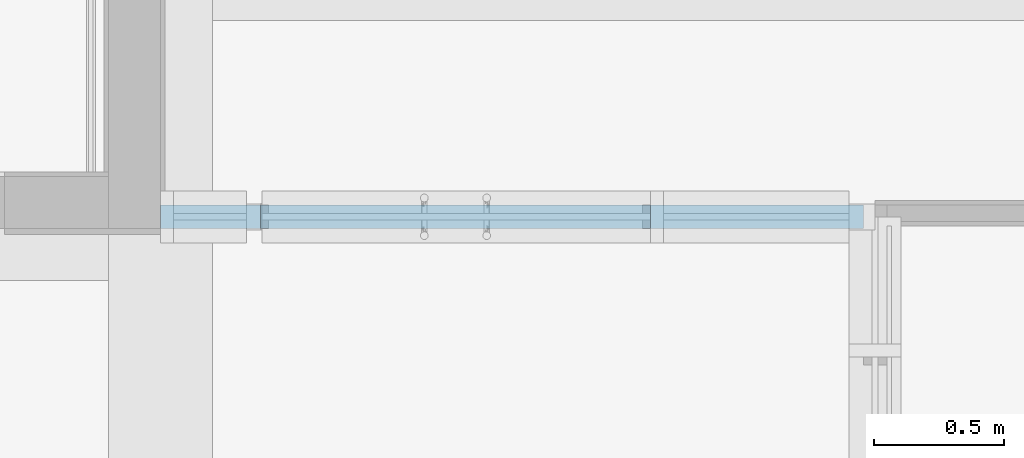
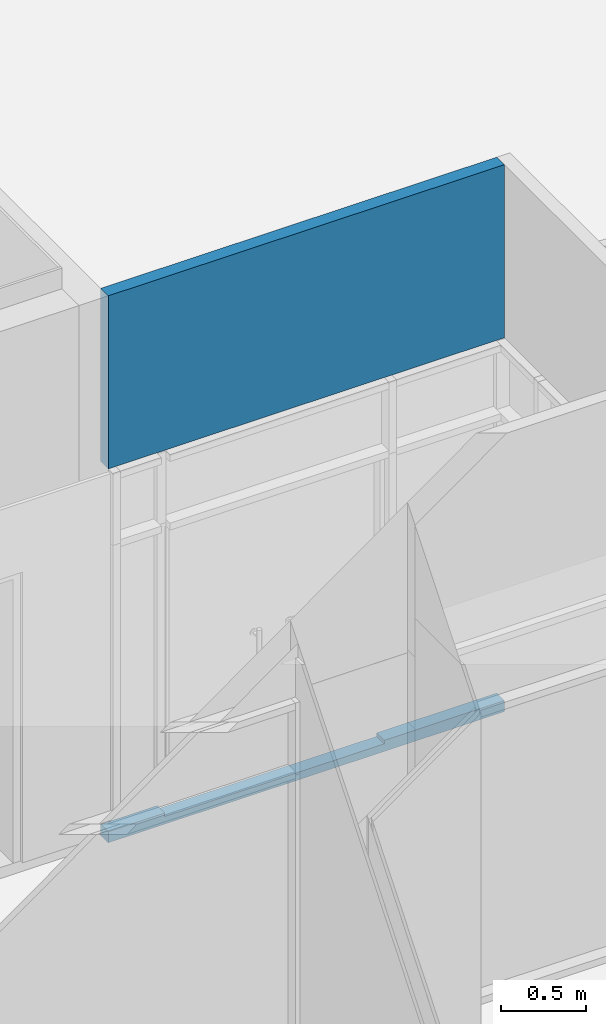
# One storey, part 49 of 81: 1 wall, 2 openings.
"""IFC2X3 building model written with IfcOpenShell, lengths in millimetres."""

from ifc_helpers import new_model, entity, si_unit, converted_unit, derived_unit, direction, frame, frame_2d, origin, place, context, subcontext, project, spatial, polyline, rectangle, outline, extrude, clip, bounded_halfspace, material, layer, layer_set, layer_usage, type_object, element, save


model = new_model("IFC2X3")

# Units and contexts
model_context = context("Model", 3, precision=0.01, world=origin(), true_north=direction((6.123031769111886e-17, 1.0)))
body_context = subcontext(model_context, "Body", "Model", "MODEL_VIEW")
ifc_project = project(units=[si_unit("LENGTHUNIT", "METRE", prefix="MILLI"), si_unit("AREAUNIT", "SQUARE_METRE"), si_unit("VOLUMEUNIT", "CUBIC_METRE"), converted_unit("PLANEANGLEUNIT", "DEGREE", entity("IfcRatioMeasure", 0.017453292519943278), si_unit("PLANEANGLEUNIT", "RADIAN"), dimensions=[0, 0, 0, 0, 0, 0, 0]), si_unit("MASSUNIT", "GRAM", prefix="KILO"), derived_unit("MASSDENSITYUNIT", [(si_unit("MASSUNIT", "GRAM", prefix="KILO"), 1), (si_unit("LENGTHUNIT", "METRE"), -3)]), derived_unit("MOMENTOFINERTIAUNIT", [(si_unit("LENGTHUNIT", "METRE"), 4)]), si_unit("TIMEUNIT", "SECOND"), si_unit("FREQUENCYUNIT", "HERTZ"), si_unit("THERMODYNAMICTEMPERATUREUNIT", "DEGREE_CELSIUS"), derived_unit("THERMALTRANSMITTANCEUNIT", [(si_unit("MASSUNIT", "GRAM", prefix="KILO"), 1), (si_unit("THERMODYNAMICTEMPERATUREUNIT", "KELVIN"), -1), (si_unit("TIMEUNIT", "SECOND"), -3)]), derived_unit("VOLUMETRICFLOWRATEUNIT", [(si_unit("LENGTHUNIT", "METRE"), 3), (si_unit("TIMEUNIT", "SECOND"), -1)]), derived_unit("MASSFLOWRATEUNIT", [(si_unit("MASSUNIT", "GRAM", prefix="KILO"), 1), (si_unit("TIMEUNIT", "SECOND"), -1)]), derived_unit("ROTATIONALFREQUENCYUNIT", [(si_unit("TIMEUNIT", "SECOND"), -1)]), si_unit("ELECTRICCURRENTUNIT", "AMPERE"), si_unit("ELECTRICVOLTAGEUNIT", "VOLT"), si_unit("POWERUNIT", "WATT"), si_unit("FORCEUNIT", "NEWTON", prefix="KILO"), si_unit("ILLUMINANCEUNIT", "LUX"), si_unit("LUMINOUSFLUXUNIT", "LUMEN"), si_unit("LUMINOUSINTENSITYUNIT", "CANDELA"), derived_unit("USERDEFINED", [(si_unit("MASSUNIT", "GRAM", prefix="KILO"), -1), (si_unit("LENGTHUNIT", "METRE"), -2), (si_unit("TIMEUNIT", "SECOND"), 3), (si_unit("LUMINOUSFLUXUNIT", "LUMEN"), 1)]), derived_unit("SOUNDPOWERUNIT", [(si_unit("MASSUNIT", "GRAM", prefix="KILO"), 1), (si_unit("LENGTHUNIT", "METRE"), 2), (si_unit("TIMEUNIT", "SECOND"), -3)]), derived_unit("SOUNDPRESSUREUNIT", [(si_unit("MASSUNIT", "GRAM", prefix="KILO"), 1), (si_unit("LENGTHUNIT", "METRE"), -1), (si_unit("TIMEUNIT", "SECOND"), -2)]), derived_unit("LINEARVELOCITYUNIT", [(si_unit("LENGTHUNIT", "METRE"), 1), (si_unit("TIMEUNIT", "SECOND"), -1)]), si_unit("PRESSUREUNIT", "PASCAL"), derived_unit("USERDEFINED", [(si_unit("LENGTHUNIT", "METRE"), -2), (si_unit("MASSUNIT", "GRAM", prefix="KILO"), 1), (si_unit("TIMEUNIT", "SECOND"), -2)]), derived_unit("LINEARFORCEUNIT", [(si_unit("MASSUNIT", "GRAM", prefix="KILO"), 1), (si_unit("LENGTHUNIT", "METRE"), 1), (si_unit("TIMEUNIT", "SECOND"), -2), (si_unit("LENGTHUNIT", "METRE"), -1)]), derived_unit("PLANARFORCEUNIT", [(si_unit("MASSUNIT", "GRAM", prefix="KILO"), 1), (si_unit("LENGTHUNIT", "METRE"), 1), (si_unit("TIMEUNIT", "SECOND"), -2), (si_unit("LENGTHUNIT", "METRE"), -2)])], contexts=[model_context])

# Site, building, storey
site_placement = place(None, frame((-14167.972527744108, -657.2125860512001, 0.0)))
site = spatial("IfcSite", under=ifc_project, at=site_placement, Name="Default", CompositionType="ELEMENT")
building_placement = place(site_placement, origin())
building = spatial("IfcBuilding", under=site, at=building_placement, Name="Sample Building", CompositionType="ELEMENT")
storey_placement = place(building_placement, frame((0.0, 0.0, 13400.0)))
storey = spatial("IfcBuildingStorey", under=building, at=storey_placement, Name="지상 4층", CompositionType="ELEMENT", Elevation=13400.00000000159)

# Wall, openings
ifc_material = material(Name="KBIMS-시멘트 벽돌")
ifc_layer = layer(ifc_material, 90.0)
ifc_layer_set = layer_set([ifc_layer], Name="기본 벽:WA211-시멘트벽돌(일반) 벽 (0.5B) 90mm")
ifc_layer_usage = layer_usage(ifc_layer_set, "AXIS2", "NEGATIVE", 45.0)
wall_type = type_object("IfcWallType", Name="기본 벽:WA211-시멘트벽돌(일반) 벽 (0.5B) 90mm", PredefinedType="STANDARD", material=ifc_layer_set)
wall_placement = place(storey_placement, frame((43672.9724911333, 15602.212586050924, 0.0), z_axis=(0.0, 0.0, 1.0), x_axis=(-1.0, 0.0, 0.0)))
wall = element("IfcWallStandardCase", 1, at=wall_placement, inside=storey, type_object=wall_type, material=ifc_layer_usage, Name="기본 벽:WA211-시멘트벽돌(일반) 벽 (0.5B) 90mm", ObjectType="기본 벽:WA211-시멘트벽돌(일반) 벽 (0.5B) 90mm", context=body_context, shape_type="Clipping", body=[
    clip(extrude(rectangle(XDim=2705.008692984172, YDim=89.99999999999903, at=frame_2d((1352.504346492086, 1.0480505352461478e-12), x_axis=(-1.0, 0.0))), origin(), (0.0, 0.0, 1.0), 3950.0000000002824), bounded_halfspace(frame((0.0, -45.0, 3950.0), z_axis=(0.0, 0.0, -1.0), x_axis=(0.0, 1.0, 0.0)), True, frame((0.0, -45.0, 3950.0), z_axis=(0.0, 0.0, -1.0), x_axis=(0.0, 1.0, 0.0)), polyline([(0.0, 0.0), (27432.0, 0.0), (27432.0, 824486.6496215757), (-4.816592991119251e-09, 824486.6496215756), (0.0, 0.0)]))),
])
opening_1_placement = place(wall_placement, origin())
element("IfcOpeningElement", 2, at=opening_1_placement, cuts=wall, Name="기본 벽:WA211-시멘트벽돌(일반) 벽 (0.5B) 90mm", ObjectType="Opening", context=body_context, shape_type="SweptSolid", body=[
    extrude(outline(polyline([(-1446.2500000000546, -1255.0065197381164), (1173.7499999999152, -1255.0065197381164), (1173.7499999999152, -869.9978267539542), (-901.2499999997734, -869.9978267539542), (-901.2499999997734, 630.0021732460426), (1173.7499999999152, 630.0021732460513), (1173.7499999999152, 1495.0021732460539), (-1446.2500000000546, 1495.0021732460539), (-1446.2500000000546, -1255.0065197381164)])), frame((1450.0021732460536, -197.4000000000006, 1253.7499999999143), z_axis=(0.0, 1.0, 0.0), x_axis=(0.0, 0.0, -1.0)), (0.0, 0.0, 1.0), 394.79999999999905),
])
opening_2_placement = place(wall_placement, frame((2320.0, 45.0, 55.0)))
element("IfcOpeningElement", 3, at=opening_2_placement, cuts=wall, Name="DR121-쌍여닫이문(철재, 일반, 양개):DR121-쌍여닫이문(유리, 일반, 양개) 1500x2100mm:1", ObjectType="Opening", context=body_context, shape_type="SweptSolid", body=[
    extrude(rectangle(XDim=2099.9999999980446, YDim=1500.0, at=frame_2d((1049.9999999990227, 750.0), x_axis=(1.0, 0.0))), frame((0.0, 0.0, 0.0), z_axis=(0.0, -1.0, 0.0), x_axis=(0.0, 0.0, 1.0)), (0.0, 0.0, 1.0), 90.0),
])

save(model, "model.ifc")
